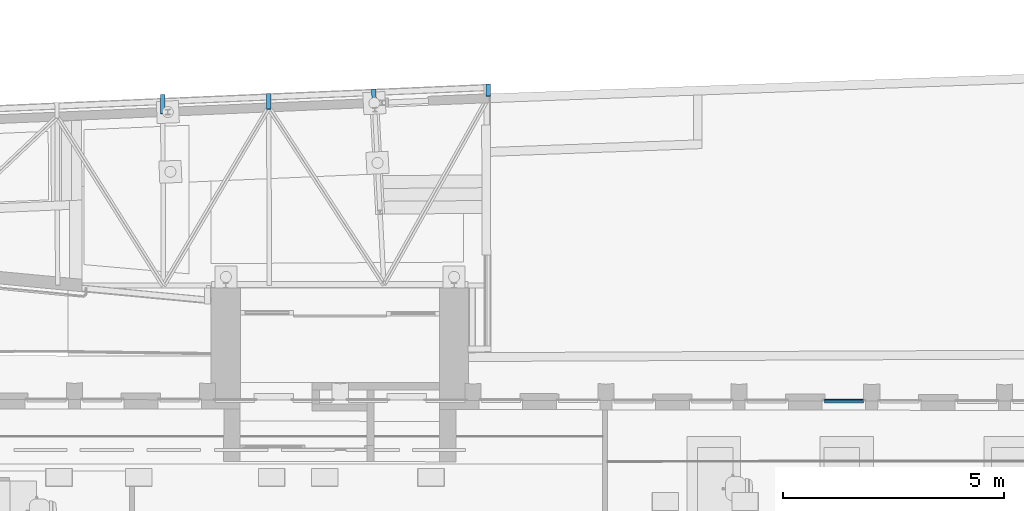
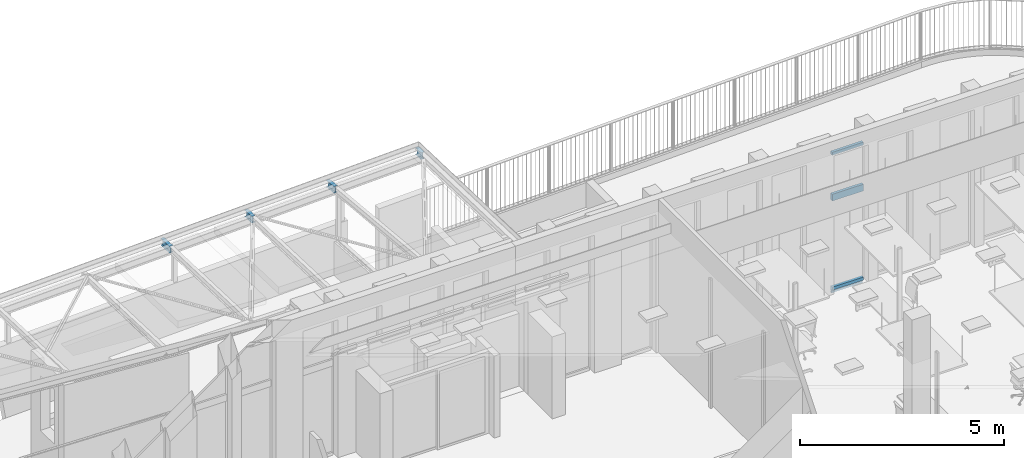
# One storey, part 19 of 128: 5 members, 4 beams, 2 elements without a shape of their own.
"""IFC2X3 building model written with IfcOpenShell, lengths in metres."""

import ifcopenshell
import ifcopenshell.guid

model = None  # the IFC model being written
_history = None  # IfcOwnerHistory: only IFC2X3 demands one
_inside = {}  # id of a spatial element -> (the spatial element, [elements in it])
_under = {}  # id of a project, library or spatial element -> (it, [spatial elements below it])
_declared = {}  # id of a project -> (the project, [libraries it declares])
_typed = {}  # id of a type object -> (the type object, [elements of that type])
_made_of = {}  # id of a material, layer set ... -> (it, [elements and type objects made of it])


def new_model(schema):
    """Start an empty IFC model of exactly this schema.

    Asked for "IFC4X3", IfcOpenShell would pick the latest addendum, in which some entities
    have other attributes; the version numbers below select the first issue.
    IFC2X3 requires an IfcOwnerHistory on every rooted entity: one is made here for all.
    """
    global model, _history
    if schema == "IFC4X3":
        model = ifcopenshell.file(schema_version=(4, 3, 0, 0))
    else:
        model = ifcopenshell.file(schema=schema)
    _inside.clear()
    _under.clear()
    _declared.clear()
    _typed.clear()
    _made_of.clear()
    _history = None
    if model.schema == "IFC2X3":
        org = make("IfcOrganization", Name="unknown")
        user = make(
            "IfcPersonAndOrganization",
            ThePerson=make("IfcPerson", FamilyName="unknown"),
            TheOrganization=org,
        )
        app = make(
            "IfcApplication",
            ApplicationDeveloper=org,
            Version="unknown",
            ApplicationFullName="unknown",
            ApplicationIdentifier="unknown",
        )
        _history = make(
            "IfcOwnerHistory",
            OwningUser=user,
            OwningApplication=app,
            ChangeAction="ADDED",
            CreationDate=0,
        )
    return model


def make(cls, **values):
    """One entity of the class cls with the attributes given. An attribute that is None is left unset."""
    return model.create_entity(
        cls, **{name: value for name, value in values.items() if value is not None}
    )


def entity(cls, *values):
    """Any entity or typed value of the class cls, its attributes in the order of the schema. None: left unset."""
    e = model.create_entity(cls)
    for i, value in enumerate(values):
        if value is not None:
            e[i] = value
    return e


def rooted(cls, **values):
    """An entity with a GlobalId (a new one), such as an element, a storey or a relation."""
    return make(cls, GlobalId=ifcopenshell.guid.new(), OwnerHistory=_history, **values)


def si_unit(unit_type, name, prefix=None):
    """IfcSIUnit, for example si_unit("LENGTHUNIT", "METRE", prefix="MILLI")."""
    return make("IfcSIUnit", UnitType=unit_type, Prefix=prefix, Name=name)


def converted_unit(unit_type, name, factor, base, dimensions=None, offset=None):
    """IfcConversionBasedUnit, such as the inch: factor (a typed value) times the base unit."""
    return make(
        "IfcConversionBasedUnit"
        if offset is None
        else "IfcConversionBasedUnitWithOffset",
        ConversionOffset=offset,
        Dimensions=None
        if dimensions is None
        else entity("IfcDimensionalExponents", *dimensions),
        UnitType=unit_type,
        Name=name,
        ConversionFactor=make(
            "IfcMeasureWithUnit", ValueComponent=factor, UnitComponent=base
        ),
    )


def derived_unit(unit_type, elements):
    """IfcDerivedUnit: a product of units, each with its exponent."""
    return make(
        "IfcDerivedUnit",
        Elements=[
            make("IfcDerivedUnitElement", Unit=unit, Exponent=power)
            for unit, power in elements
        ],
        UnitType=unit_type,
    )


def assignment(units):
    """IfcUnitAssignment: the units of a project."""
    return None if units is None else make("IfcUnitAssignment", Units=units)


def point(xyz):
    """IfcCartesianPoint."""
    return None if xyz is None else make("IfcCartesianPoint", Coordinates=xyz)


def direction(xyz):
    """IfcDirection."""
    return None if xyz is None else make("IfcDirection", DirectionRatios=xyz)


def frame(location, z_axis=None, x_axis=None):
    """IfcAxis2Placement3D, a coordinate frame: its origin and axes. An axis left out is left unset."""
    return make(
        "IfcAxis2Placement3D",
        Location=point(location),
        Axis=direction(z_axis),
        RefDirection=direction(x_axis),
    )


def frame_2d(location, x_axis=None):
    """IfcAxis2Placement2D, a coordinate frame in the plane: its origin and x axis."""
    return make(
        "IfcAxis2Placement2D", Location=point(location), RefDirection=direction(x_axis)
    )


def origin():
    """The frame at (0, 0, 0) with its axes left unset."""
    return frame((0.0, 0.0, 0.0))


def origin_2d_with_axis():
    """The frame at (0, 0) in the plane with the x axis (1, 0) written out."""
    return frame_2d((0.0, 0.0), x_axis=(1.0, 0.0))


def place(relative_to, where):
    """IfcLocalPlacement: puts the frame where relative to a parent placement (None: the world)."""
    return make(
        "IfcLocalPlacement", PlacementRelTo=relative_to, RelativePlacement=where
    )


def context(
    kind, dimensions, precision=None, world=None, true_north=None, identifier=None
):
    """IfcGeometricRepresentationContext, for example the 3D "Model" context."""
    return make(
        "IfcGeometricRepresentationContext",
        ContextIdentifier=identifier,
        ContextType=kind,
        CoordinateSpaceDimension=dimensions,
        Precision=precision,
        WorldCoordinateSystem=world,
        TrueNorth=true_north,
    )


def subcontext(parent, identifier, kind, view, scale=None):
    """IfcGeometricRepresentationSubContext, for example "Body" below "Model"."""
    return make(
        "IfcGeometricRepresentationSubContext",
        ContextIdentifier=identifier,
        ContextType=kind,
        ParentContext=parent,
        TargetScale=scale,
        TargetView=view,
    )


def project(units=None, contexts=None):
    """IfcProject with its units and contexts."""
    return rooted(
        "IfcProject",
        Name="project",
        RepresentationContexts=contexts,
        UnitsInContext=assignment(units),
    )


def spatial(cls, under=None, at=None, **own):
    """A site, building, storey or space (cls), placed at a placement, below another one or the project."""
    s = rooted(cls, ObjectPlacement=at, **own)
    if under is not None:
        _under.setdefault(under.id(), (under, []))[1].append(s)
    return s


def profile(cls, at=None, kind="AREA", **sizes):
    """A parametric profile (cls). Its sizes go by their IFC names, for example OverallWidth=200.0."""
    return make(cls, ProfileType=kind, Position=at, **sizes)


def rectangle(**sizes):
    """IfcRectangleProfileDef."""
    return profile("IfcRectangleProfileDef", **sizes)


def i_section(**sizes):
    """IfcIShapeProfileDef."""
    return profile("IfcIShapeProfileDef", **sizes)


def extrude(swept, where, along, depth):
    """IfcExtrudedAreaSolid: the profile swept, set in the frame where, extruded along a direction by depth."""
    return make(
        "IfcExtrudedAreaSolid",
        SweptArea=swept,
        Position=where,
        ExtrudedDirection=direction(along),
        Depth=depth,
    )


def shape(context_of_items, identifier, shape_type, items):
    """IfcShapeRepresentation: the items that make up one representation, for example the "Body"."""
    return make(
        "IfcShapeRepresentation",
        ContextOfItems=context_of_items,
        RepresentationIdentifier=identifier,
        RepresentationType=shape_type,
        Items=items,
    )


def source(mapping_origin, context_of_items, identifier, shape_type, items):
    """IfcRepresentationMap: a shape defined once, which mapped items show again and again."""
    return make(
        "IfcRepresentationMap",
        MappingOrigin=mapping_origin,
        MappedRepresentation=shape(context_of_items, identifier, shape_type, items),
    )


def transform(
    local_origin,
    x_axis=None,
    y_axis=None,
    z_axis=None,
    scale=None,
    scale2=None,
    scale3=None,
    uniform=True,
):
    """IfcCartesianTransformationOperator3D, or its non-uniform kind. x_axis, y_axis, z_axis: its Axis1, 2, 3."""
    if uniform:
        return make(
            "IfcCartesianTransformationOperator3D",
            Axis1=direction(x_axis),
            Axis2=direction(y_axis),
            LocalOrigin=point(local_origin),
            Scale=scale,
            Axis3=direction(z_axis),
        )
    return make(
        "IfcCartesianTransformationOperator3DnonUniform",
        Axis1=direction(x_axis),
        Axis2=direction(y_axis),
        LocalOrigin=point(local_origin),
        Scale=scale,
        Axis3=direction(z_axis),
        Scale2=scale2,
        Scale3=scale3,
    )


def mapped(mapping_source, mapping_target):
    """IfcMappedItem: shows the shape of a source again, moved by a transform."""
    return make(
        "IfcMappedItem", MappingSource=mapping_source, MappingTarget=mapping_target
    )


def material(Name=None, Category=None):
    """IfcMaterial."""
    return make("IfcMaterial", Name=Name, Category=Category)


def made_of(thing, what):
    """Note that an element or type object is made of a material, layer set ...; save() writes the relation."""
    if what is not None:
        _made_of.setdefault(what.id(), (what, []))[1].append(thing)
    return thing


def type_object(cls, material=None, **own):
    """A type object (cls), such as IfcWallType, which elements share."""
    return made_of(rooted(cls, **own), material)


def type_shapes(of_type, sources):
    """Give a type object the sources (RepresentationMaps) that its elements show as mapped items."""
    of_type.RepresentationMaps = sources


def element(
    cls,
    number,
    at=None,
    inside=None,
    cuts=None,
    type_object=None,
    material=None,
    context=None,
    identifier="Body",
    shape_type=None,
    held_by="IfcProductDefinitionShape",
    body=None,
    shapes=None,
    **own,
):
    """One element of the class cls, such as IfcWall. Its Tag is "e" and its number.

    at: its placement. inside: the storey or other place that contains it. cuts: it is an
    opening in that element (IfcRelVoidsElement). A single representation is given by context,
    identifier, shape_type and body (its items); several are given by shapes. held_by: the class
    of the entity that holds the representations. save() writes the other relations.
    """
    e = rooted(cls, Tag="e%d" % number, ObjectPlacement=at, **own)
    if body is not None:
        shapes = [shape(context, identifier, shape_type, body)]
    if shapes is not None:
        e.Representation = make(held_by, Representations=shapes)
    if inside is not None:
        _inside.setdefault(inside.id(), (inside, []))[1].append(e)
    if cuts is not None:
        rooted(
            "IfcRelVoidsElement", RelatingBuildingElement=cuts, RelatedOpeningElement=e
        )
    if type_object is not None:
        _typed.setdefault(type_object.id(), (type_object, []))[1].append(e)
    return made_of(e, material)


def aggregate(whole, parts):
    """IfcRelAggregates: a whole, such as a stair, and the parts it consists of."""
    return rooted("IfcRelAggregates", RelatingObject=whole, RelatedObjects=parts)


def save(model, path):
    """Write the relations noted so far, then the file.

    IfcRelAggregates (storeys below a building ...), IfcRelContainedInSpatialStructure (elements
    in a storey), IfcRelDefinesByType, IfcRelAssociatesMaterial and IfcRelDeclares: one each for
    every whole, place, type object, material and project.
    """
    for whole, parts in _under.values():
        aggregate(whole, parts)
    for where, things in _inside.values():
        rooted(
            "IfcRelContainedInSpatialStructure",
            RelatedElements=things,
            RelatingStructure=where,
        )
    for kind, things in _typed.values():
        rooted("IfcRelDefinesByType", RelatedObjects=things, RelatingType=kind)
    for what, things in _made_of.values():
        rooted("IfcRelAssociatesMaterial", RelatedObjects=things, RelatingMaterial=what)
    for by, libraries in _declared.values():
        rooted("IfcRelDeclares", RelatingContext=by, RelatedDefinitions=libraries)
    model.write(path)


model = new_model("IFC2X3")

# Units and contexts
model_context = context("Model", 3, precision=1e-05, world=origin(), true_north=direction((6.123031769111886e-17, 1.0)))
body_context = subcontext(model_context, "Body", "Model", "MODEL_VIEW")
ifc_project = project(units=[si_unit("LENGTHUNIT", "METRE"), si_unit("AREAUNIT", "SQUARE_METRE"), converted_unit("PLANEANGLEUNIT", "DEGREE", entity("IfcPlaneAngleMeasure", 0.017453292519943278), si_unit("PLANEANGLEUNIT", "RADIAN"), dimensions=[0, 0, 0, 0, 0, 0, 0]), derived_unit("THERMALTRANSMITTANCEUNIT", [(si_unit("MASSUNIT", "GRAM", prefix="KILO"), 1), (si_unit("THERMODYNAMICTEMPERATUREUNIT", "KELVIN"), -1), (si_unit("TIMEUNIT", "SECOND"), -3)])], contexts=[model_context])

# Site, building, storey
site_placement = place(None, origin())
site = spatial("IfcSite", under=ifc_project, at=site_placement, Name="Default", CompositionType="ELEMENT")
building_placement = place(site_placement, origin())
building = spatial("IfcBuilding", under=site, at=building_placement, CompositionType="ELEMENT")
storey_placement = place(building_placement, origin())
storey = spatial("IfcBuildingStorey", under=building, at=storey_placement, Name="00_RDC CAF", CompositionType="ELEMENT", Elevation=2.4982504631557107e-13)

# Curtain wall, members
curtain_wall_type_1 = type_object("IfcCurtainWallType", Name="Mur-rideau:FRi.Ext.30mm RDC", PredefinedType="NOTDEFINED")
curtain_wall_1_placement = place(storey_placement, origin())
curtain_wall_1 = element("IfcCurtainWall", 1, at=curtain_wall_1_placement, inside=storey, type_object=curtain_wall_type_1, Name="Mur-rideau:FRi.Ext.30mm RDC", ObjectType="Mur-rideau:FRi.Ext.30mm RDC")
ifc_material_1 = material(Name="ARC - M.Ex - Blanc")
member_type_1 = type_object("IfcMemberType", Name="Meneau rectangulaire:F.Ri.M_Ext_Rectangulaire_200x80mm", PredefinedType="MULLION", material=ifc_material_1)
shared_shape_1 = source(origin(), body_context, "Body", "SweptSolid", [
    extrude(rectangle(XDim=0.2, YDim=0.07999999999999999, at=origin_2d_with_axis()), frame((0.0, 0.025, -0.8799999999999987), z_axis=(0.0, 0.0, 1.0), x_axis=(-1.0, 0.0, 0.0)), (0.0, 0.0, 1.0), 0.8799999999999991),
])
type_shapes(member_type_1, [shared_shape_1])
member_1_placement = place(curtain_wall_1_placement, frame((39.562351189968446, 144.13195431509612, 2.7689999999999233), z_axis=(1.0, 0.0, 0.0), x_axis=(0.0, 0.0, 1.0)))
member_1 = element("IfcMember", 2, at=member_1_placement, type_object=member_type_1, material=ifc_material_1, Name="Meneau rectangulaire:F.Ri.M_Ext_Rectangulaire_200x80mm", ObjectType="Meneau rectangulaire:F.Ri.M_Ext_Rectangulaire_200x80mm", context=body_context, shape_type="MappedRepresentation", body=[
    mapped(shared_shape_1, transform((0.0, 0.0, 0.0), scale=1.0)),
])
member_type_2 = type_object("IfcMemberType", Name="Meneau rectangulaire:F.Ri.M_Ext_Rectangulaire_90x80mm", PredefinedType="MULLION", material=ifc_material_1)
shared_shape_2 = source(origin(), body_context, "Body", "SweptSolid", [
    extrude(rectangle(XDim=0.09, YDim=0.07999999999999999, at=origin_2d_with_axis()), frame((-0.045, 0.025, -0.8799999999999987), z_axis=(0.0, 0.0, 1.0), x_axis=(-1.0, 0.0, 0.0)), (0.0, 0.0, 1.0), 0.8799999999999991),
])
type_shapes(member_type_2, [shared_shape_2])
member_2_placement = place(curtain_wall_1_placement, frame((39.562351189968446, 144.13195431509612, 4.127999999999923), z_axis=(1.0, 0.0, 0.0), x_axis=(0.0, 0.0, 1.0)))
member_2 = element("IfcMember", 3, at=member_2_placement, type_object=member_type_2, material=ifc_material_1, Name="Meneau rectangulaire:F.Ri.M_Ext_Rectangulaire_90x80mm", ObjectType="Meneau rectangulaire:F.Ri.M_Ext_Rectangulaire_90x80mm", context=body_context, shape_type="MappedRepresentation", body=[
    mapped(shared_shape_2, transform((0.0, 0.0, 0.0), scale=1.0)),
])
member_type_3 = type_object("IfcMemberType", Name="Meneau rectangulaire:F.Ri.M_Ext_Rectangulaire_90x80mm", PredefinedType="MULLION", material=ifc_material_1)
shared_shape_3 = source(origin(), body_context, "Body", "SweptSolid", [
    extrude(rectangle(XDim=0.09, YDim=0.07999999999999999, at=origin_2d_with_axis()), frame((-0.045, 0.025, -0.8799999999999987), z_axis=(0.0, 0.0, 1.0), x_axis=(-1.0, 0.0, 0.0)), (0.0, 0.0, 1.0), 0.8799999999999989),
])
type_shapes(member_type_3, [shared_shape_3])
member_3_placement = place(curtain_wall_1_placement, frame((38.682352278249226, 144.13333828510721, 0.0), z_axis=(-1.0, 0.0, 0.0), x_axis=(0.0, 0.0, -1.0)))
member_3 = element("IfcMember", 4, at=member_3_placement, type_object=member_type_3, material=ifc_material_1, Name="Meneau rectangulaire:F.Ri.M_Ext_Rectangulaire_90x80mm", ObjectType="Meneau rectangulaire:F.Ri.M_Ext_Rectangulaire_90x80mm", context=body_context, shape_type="MappedRepresentation", body=[
    mapped(shared_shape_3, transform((0.0, 0.0, 0.0), scale=1.0)),
])
aggregate(curtain_wall_1, [member_1, member_2, member_3])

curtain_wall_type_2 = type_object("IfcCurtainWallType", Name="Mur-rideau:FRi.Ext.30mm Etages", PredefinedType="NOTDEFINED")
curtain_wall_2_placement = place(storey_placement, origin())
curtain_wall_2 = element("IfcCurtainWall", 5, at=curtain_wall_2_placement, inside=storey, type_object=curtain_wall_type_2, Name="Mur-rideau:FRi.Ext.30mm Etages", ObjectType="Mur-rideau:FRi.Ext.30mm Etages")
member_type_4 = type_object("IfcMemberType", Name="Meneau rectangulaire:F.Ri.M_Ext_Rectangulaire_50x30mm", PredefinedType="MULLION", material=ifc_material_1)
shared_shape_4 = source(origin(), body_context, "Body", "SweptSolid", [
    extrude(rectangle(XDim=0.05, YDim=0.03, at=origin_2d_with_axis()), frame((0.0, 0.0, -0.8800000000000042), z_axis=(0.0, 0.0, 1.0), x_axis=(-1.0, 0.0, 0.0)), (0.0, 0.0, 1.0), 0.8800000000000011),
])
type_shapes(member_type_4, [shared_shape_4])
member_4_placement = place(curtain_wall_2_placement, frame((38.68232639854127, 144.13333832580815, -0.087000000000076), z_axis=(-1.0, 0.0, 0.0), x_axis=(0.0, 0.0, 1.0)))
member_4 = element("IfcMember", 6, at=member_4_placement, type_object=member_type_4, material=ifc_material_1, Name="Meneau rectangulaire:F.Ri.M_Ext_Rectangulaire_50x30mm", ObjectType="Meneau rectangulaire:F.Ri.M_Ext_Rectangulaire_50x30mm", context=body_context, shape_type="MappedRepresentation", body=[
    mapped(shared_shape_4, transform((0.0, 0.0, 0.0), scale=1.0)),
])
member_type_5 = type_object("IfcMemberType", Name="Meneau rectangulaire:F.Ri.M_Ext_Rectangulaire_50x30mm", PredefinedType="MULLION", material=ifc_material_1)
shared_shape_5 = source(origin(), body_context, "Body", "SweptSolid", [
    extrude(rectangle(XDim=0.05, YDim=0.03, at=origin_2d_with_axis()), frame((-0.025, 0.0, -0.8800000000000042), z_axis=(0.0, 0.0, 1.0), x_axis=(-1.0, 0.0, 0.0)), (0.0, 0.0, 1.0), 0.8800000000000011),
])
type_shapes(member_type_5, [shared_shape_5])
member_5_placement = place(curtain_wall_2_placement, frame((38.68232639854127, 144.13333832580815, 0.0), z_axis=(-1.0, 0.0, 0.0), x_axis=(0.0, 0.0, 1.0)))
member_5 = element("IfcMember", 7, at=member_5_placement, type_object=member_type_5, material=ifc_material_1, Name="Meneau rectangulaire:F.Ri.M_Ext_Rectangulaire_50x30mm", ObjectType="Meneau rectangulaire:F.Ri.M_Ext_Rectangulaire_50x30mm", context=body_context, shape_type="MappedRepresentation", body=[
    mapped(shared_shape_5, transform((0.0, 0.0, 0.0), scale=1.0)),
])
aggregate(curtain_wall_2, [member_4, member_5])

# Beams
ifc_material_2 = material(Name="Acier structurel - S235")
beam_type = type_object("IfcBeamType", Name="IPE:IPE200", PredefinedType="BEAM")
beam_1_placement = place(storey_placement, frame((23.745078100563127, 150.59913028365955, 2.597842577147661), z_axis=(-0.00014410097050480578, 0.031039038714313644, 0.9995181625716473), x_axis=(-0.004640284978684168, 0.9995073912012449, -0.031039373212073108)))
element("IfcBeam", 8, at=beam_1_placement, inside=storey, type_object=beam_type, material=ifc_material_2, Name="IPE:IPE200", ObjectType="IPE:IPE200", context=body_context, shape_type="SweptSolid", body=[
    extrude(i_section(OverallWidth=0.0999999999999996, OverallDepth=0.1999999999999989, WebThickness=0.005600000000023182, FlangeThickness=0.00850000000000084, FilletRadius=0.012000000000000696, at=frame_2d((1.2212453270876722e-15, 6.498274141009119e-15), x_axis=(0.0, 1.0))), frame((0.0035090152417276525, 0.0, -0.10000000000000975), z_axis=(1.0, 0.0, 0.0), x_axis=(0.0, 0.0, -1.0)), (0.0, 0.0, 1.0), 0.42756803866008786),
])
beam_2_placement = place(storey_placement, frame((26.135856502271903, 150.7021822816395, 2.5947497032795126), z_axis=(-0.00014384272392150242, 0.03098345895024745, 0.9995198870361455), x_axis=(-0.004640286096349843, 0.9995091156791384, -0.030983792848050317)))
element("IfcBeam", 9, at=beam_2_placement, inside=storey, type_object=beam_type, material=ifc_material_2, Name="IPE:IPE200", ObjectType="IPE:IPE200", context=body_context, shape_type="SweptSolid", body=[
    extrude(i_section(OverallWidth=0.10000000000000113, OverallDepth=0.20000000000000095, WebThickness=0.005599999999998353, FlangeThickness=0.008500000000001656, FilletRadius=0.011999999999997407, at=frame_2d((1.3530843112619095e-15, 4.333339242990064e-15), x_axis=(0.0, 1.0))), frame((0.0035090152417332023, 0.0, -0.10000000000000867), z_axis=(1.0, 0.0, 0.0), x_axis=(0.0, 0.0, -1.0)), (0.0, 0.0, 1.0), 0.35219985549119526),
])
beam_3_placement = place(storey_placement, frame((28.521756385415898, 150.80499891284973, 2.591627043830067), z_axis=(-0.0016043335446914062, 0.03090111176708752, 0.999521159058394), x_axis=(-0.05182365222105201, 0.9981767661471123, -0.030942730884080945)))
element("IfcBeam", 10, at=beam_3_placement, inside=storey, type_object=beam_type, material=ifc_material_2, Name="IPE:IPE200", ObjectType="IPE:IPE200", context=body_context, shape_type="SweptSolid", body=[
    extrude(i_section(OverallWidth=0.10000000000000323, OverallDepth=0.20000000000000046, WebThickness=0.00559999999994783, FlangeThickness=0.008500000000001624, FilletRadius=0.011999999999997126, at=frame_2d((2.033095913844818e-15, 0.0), x_axis=(0.0, 1.0))), frame((0.003509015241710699, 0.0, -0.1000000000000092), z_axis=(1.0, 0.0, 0.0), x_axis=(0.0, 0.0, -1.0)), (0.0, 0.0, 1.0), 0.35219985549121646),
])
beam_4_placement = place(storey_placement, frame((31.09316375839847, 150.91926159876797, 2.588089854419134), z_axis=(-4.3739889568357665e-05, 0.031031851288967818, 0.9995183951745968), x_axis=(-0.001408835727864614, 0.9995174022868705, -0.03103188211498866)))
element("IfcBeam", 11, at=beam_4_placement, inside=storey, type_object=beam_type, material=ifc_material_2, Name="IPE:IPE200", ObjectType="IPE:IPE200", context=body_context, shape_type="SweptSolid", body=[
    extrude(i_section(OverallWidth=0.10000000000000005, OverallDepth=0.2000000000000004, WebThickness=0.005600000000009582, FlangeThickness=0.00850000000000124, FilletRadius=0.011999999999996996, at=frame_2d((1.7555401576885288e-15, -4.3298697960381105e-15), x_axis=(0.0, 1.0))), frame((0.07771667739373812, 0.0, -0.10000000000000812), z_axis=(1.0, 0.0, 0.0), x_axis=(0.0, 0.0, -1.0)), (0.0, 0.0, 1.0), 0.2779921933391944),
])

save(model, "model.ifc")
